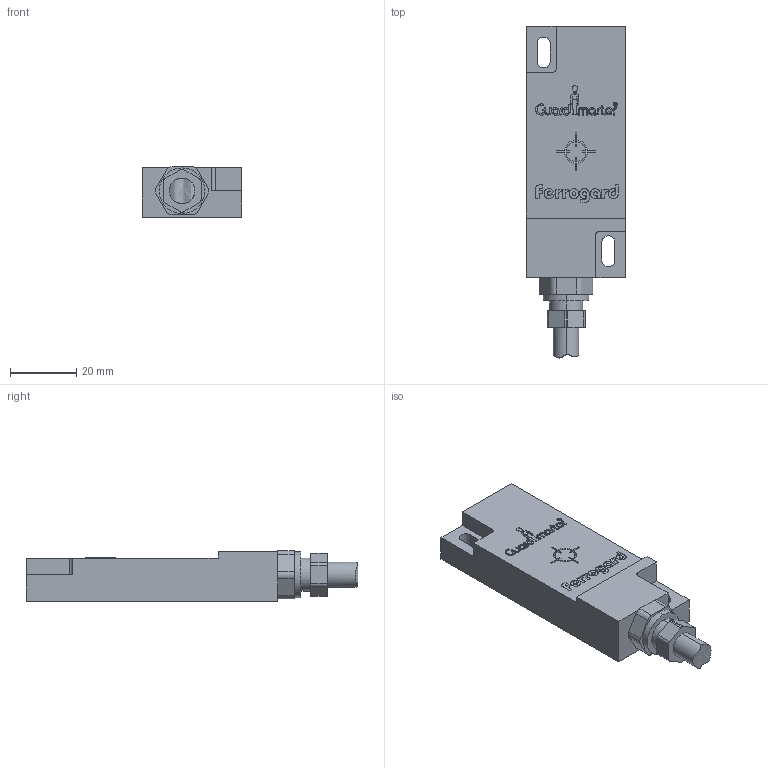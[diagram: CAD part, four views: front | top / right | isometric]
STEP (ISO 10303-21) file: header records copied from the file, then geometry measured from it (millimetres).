
FILE_DESCRIPTION((''),'2;1');
FILE_NAME('440N-G020XX-CABLE','2007-09-12T',('jcarval'),('Rockwell Automation'),'PRO/ENGINEER BY PARAMETRIC TECHNOLOGY CORPORATION, 2005110','PRO/ENGINEER BY PARAMETRIC TECHNOLOGY CORPORATION, 2005110','');
FILE_SCHEMA(('CONFIG_CONTROL_DESIGN'));
Length unit declared in the file: millimetre
Products named in the file (1): 440N-G020XX-CABLE
Bounding box: 30 x 100.27 x 15.25 mm (x, y, z)
Surface area: 8822.7 mm2
Topology: 1 solids, 18 shells, 366 faces, 940 edges, 626 vertices
Faces by surface type: plane 203, bspline 92, cylinder 71
Entity records: 16395 total; most frequent: CARTESIAN_POINT 8044, ORIENTED_EDGE 1880, DIRECTION 1444, EDGE_CURVE 940, VERTEX_POINT 626, VECTOR 614, LINE 614, AXIS2_PLACEMENT_3D 415
